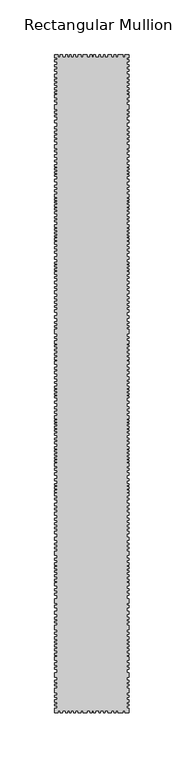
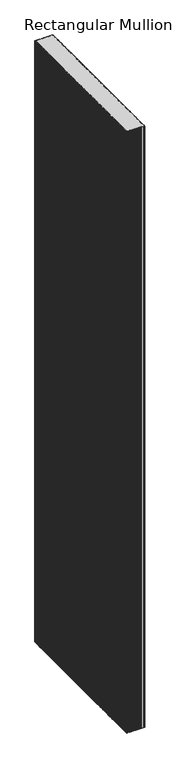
"""IFC4 building model written with IfcOpenShell, lengths in millimetres: member geometry, Rectangular Mullion : DucoSun Cubic Design louvre 600."""

from ifc_helpers import new_model, si_unit, frame, origin, place, context, project, spatial, polyline, outline, extrude, source, transform, mapped, element, save


def rectangular_mullion_49b28068(model_context):
    return source(origin(), model_context, "Body", "SweptSolid", [
        extrude(outline(polyline([(34.0, 597.3782451), (32.0, 597.3782451), (32.0, 595.4241521), (34.0, 595.4241521), (34.0, 593.6532553), (32.0, 593.6532553), (32.0, 590.9460223), (34.0, 590.9460223), (34.0, 588.9105087), (32.0, 588.9105087), (32.0, 586.7121541), (34.0, 586.7121541), (34.0, 585.0023227), (32.0, 585.0023227), (32.0, 582.3561551), (34.0, 582.3561551), (34.0, 579.3843053), (32.0, 579.3843053), (32.0, 577.8917893), (34.0, 577.8917893), (34.0, 575.8425117), (32.0, 575.8425117), (32.0, 573.8680636), (34.0, 573.8680636), (34.0, 572.1582322), (32.0, 572.1582322), (32.0, 570.0820083), (34.0, 570.0820083), (34.0, 568.3111116), (32.0, 568.3111116), (32.0, 566.4995045), (34.0, 566.4995045), (34.0, 565.0713495), (32.0, 565.0713495), (32.0, 563.4577392), (34.0, 563.4577392), (34.0, 561.0328231), (32.0, 561.0328231), (32.0, 558.5725067), (34.0, 558.5725067), (34.0, 557.0325964), (32.0, 557.0325964), (32.0, 554.5014796), (34.0, 554.5014796), (34.0, 550.4127524), (32.0, 550.4127524), (32.0, 548.4126391), (34.0, 548.4126391), (34.0, 546.8373286), (32.0, 546.8373286), (32.0, 544.9965163), (34.0, 544.9965163), (34.0, 543.3504053), (32.0, 543.3504053), (32.0, 540.3767855), (34.0, 540.3767855), (34.0, 537.9545244), (32.0, 537.9545244), (32.0, 534.5552168), (34.0, 534.5552168), (34.0, 532.5197032), (32.0, 532.5197032), (32.0, 530.239928), (34.0, 530.239928), (34.0, 528.6929377), (32.0, 528.6929377), (32.0, 526.4335177), (34.0, 526.4335177), (34.0, 524.5608452), (32.0, 524.5608452), (32.0, 522.6271073), (34.0, 522.6271073), (34.0, 520.5508835), (32.0, 520.5508835), (32.0, 518.0064916), (34.0, 518.0064916), (34.0, 514.9328661), (32.0, 514.9328661), (32.0, 512.9177077), (34.0, 512.9177077), (34.0, 511.4114277), (32.0, 511.4114277), (32.0, 508.9688114), (34.0, 508.9688114), (34.0, 506.7118273), (32.0, 506.7118273), (32.0, 503.8852623), (34.0, 503.8852623), (34.0, 502.4316003), (32.0, 502.4316003), (32.0, 499.9011516), (34.0, 499.9011516), (34.0, 497.8552569), (32.0, 497.8552569), (32.0, 496.6169522), (34.0, 496.6169522), (34.0, 495.0825312), (32.0, 495.0825312), (32.0, 493.4673512), (34.0, 493.4673512), (34.0, 492.0675286), (32.0, 492.0675286), (32.0, 490.5869469), (34.0, 490.5869469), (34.0, 489.1602046), (32.0, 489.1602046), (32.0, 486.3310055), (34.0, 486.3310055), (34.0, 484.2608252), (32.0, 484.2608252), (32.0, 481.1919832), (34.0, 481.1919832), (34.0, 479.2537672), (32.0, 479.2537672), (32.0, 476.9360418), (34.0, 476.9360418), (34.0, 475.0004598), (32.0, 475.0004598), (32.0, 472.9007258), (34.0, 472.9007258), (34.0, 470.1010805), (32.0, 470.1010805), (32.0, 468.8089365), (34.0, 468.8089365), (34.0, 467.3014351), (32.0, 467.3014351), (32.0, 466.0362108), (34.0, 466.0362108), (34.0, 465.0401831), (32.0, 465.0401831), (32.0, 463.2096458), (34.0, 463.2096458), (34.0, 461.6483051), (32.0, 461.6483051), (32.0, 460.1408038), (34.0, 460.1408038), (34.0, 458.6063828), (32.0, 458.6063828), (32.0, 457.0719618), (34.0, 457.0719618), (34.0, 455.0799064), (32.0, 455.0799064), (32.0, 452.3762692), (34.0, 452.3762692), (34.0, 450.8903036), (32.0, 450.8903036), (32.0, 449.1257194), (34.0, 449.1257194), (34.0, 447.6087962), (32.0, 447.6087962), (32.0, 444.8535683), (34.0, 444.8535683), (34.0, 442.7484504), (32.0, 442.7484504), (32.0, 441.4172729), (34.0, 441.4172729), (34.0, 439.9622649), (32.0, 439.9622649), (32.0, 438.3524688), (34.0, 438.3524688), (34.0, 436.8355456), (32.0, 436.8355456), (32.0, 435.1947919), (34.0, 435.1947919), (34.0, 433.9255296), (32.0, 433.9255296), (32.0, 432.5014792), (34.0, 432.5014792), (34.0, 431.1083865), (32.0, 431.1083865), (32.0, 429.6843361), (34.0, 429.6843361), (34.0, 427.0529387), (32.0, 427.0529387), (32.0, 424.9787784), (34.0, 424.9787784), (34.0, 423.0284485), (32.0, 423.0284485), (32.0, 420.7995001), (34.0, 420.7995001), (34.0, 418.8182126), (32.0, 418.8182126), (32.0, 415.6914933), (34.0, 415.6914933), (34.0, 413.4935025), (32.0, 413.4935025), (32.0, 410.954978), (34.0, 410.954978), (34.0, 409.4070971), (32.0, 409.4070971), (32.0, 408.1378348), (34.0, 408.1378348), (34.0, 406.4970812), (32.0, 406.4970812), (32.0, 404.8253698), (34.0, 404.8253698), (34.0, 403.3394042), (32.0, 403.3394042), (32.0, 402.0391843), (34.0, 402.0391843), (34.0, 400.0578969), (32.0, 400.0578969), (32.0, 397.6741604), (34.0, 397.6741604), (34.0, 396.0953219), (32.0, 396.0953219), (32.0, 393.3091364), (34.0, 393.3091364), (34.0, 391.0182728), (32.0, 391.0182728), (32.0, 388.572621), (34.0, 388.572621), (34.0, 387.1485707), (32.0, 387.1485707), (32.0, 385.0124951), (34.0, 385.0124951), (34.0, 382.1643944), (32.0, 382.1643944), (32.0, 379.3782089), (34.0, 379.3782089), (34.0, 377.427879), (32.0, 377.427879), (32.0, 375.4156339), (34.0, 375.4156339), (34.0, 373.6510498), (32.0, 373.6510498), (32.0, 371.1744404), (34.0, 371.1744404), (34.0, 369.6884748), (32.0, 369.6884748), (32.0, 367.5523993), (34.0, 367.5523993), (34.0, 365.4163237), (32.0, 365.4163237), (32.0, 362.1967316), (34.0, 362.1967316), (34.0, 359.5343765), (32.0, 359.5343765), (32.0, 356.7791486), (34.0, 356.7791486), (34.0, 355.0764797), (32.0, 355.0764797), (32.0, 352.9404041), (34.0, 352.9404041), (34.0, 351.6092266), (32.0, 351.6092266), (32.0, 349.5660239), (34.0, 349.5660239), (34.0, 345.512038), (32.0, 345.512038), (32.0, 343.0030092), (34.0, 343.0030092), (34.0, 341.3312979), (32.0, 341.3312979), (32.0, 339.0404342), (34.0, 339.0404342), (34.0, 336.5638249), (32.0, 336.5638249), (32.0, 335.015944), (34.0, 335.015944), (34.0, 333.5609361), (32.0, 333.5609361), (32.0, 331.5796486), (34.0, 331.5796486), (34.0, 330.0627254), (32.0, 330.0627254), (32.0, 327.8337769), (34.0, 327.8337769), (34.0, 326.1620656), (32.0, 326.1620656), (32.0, 324.0259901), (34.0, 324.0259901), (34.0, 322.0756602), (32.0, 322.0756602), (32.0, 320.6516099), (34.0, 320.6516099), (34.0, 317.7415939), (32.0, 317.7415939), (32.0, 315.2030693), (34.0, 315.2030693), (34.0, 313.1908242), (32.0, 313.1908242), (32.0, 311.2404944), (34.0, 311.2404944), (34.0, 309.1353764), (32.0, 309.1353764), (32.0, 306.2563181), (34.0, 306.2563181), (34.0, 303.7186411), (32.0, 303.7186411), (32.0, 301.7889994), (34.0, 301.7889994), (34.0, 300.3353374), (32.0, 300.3353374), (32.0, 297.8048887), (34.0, 297.8048887), (34.0, 295.758994), (32.0, 295.758994), (32.0, 294.5206893), (34.0, 294.5206893), (34.0, 292.9862683), (32.0, 292.9862683), (32.0, 291.3710883), (34.0, 291.3710883), (34.0, 289.9712657), (32.0, 289.9712657), (32.0, 288.490684), (34.0, 288.490684), (34.0, 287.0639417), (32.0, 287.0639417), (32.0, 284.2347426), (34.0, 284.2347426), (34.0, 282.1645623), (32.0, 282.1645623), (32.0, 279.0957203), (34.0, 279.0957203), (34.0, 277.1575043), (32.0, 277.1575043), (32.0, 274.8397789), (34.0, 274.8397789), (34.0, 272.9041969), (32.0, 272.9041969), (32.0, 270.8044629), (34.0, 270.8044629), (34.0, 268.0048176), (32.0, 268.0048176), (32.0, 266.7126736), (34.0, 266.7126736), (34.0, 265.2051722), (32.0, 265.2051722), (32.0, 263.9399479), (34.0, 263.9399479), (34.0, 262.9439202), (32.0, 262.9439202), (32.0, 261.1133829), (34.0, 261.1133829), (34.0, 259.5520422), (32.0, 259.5520422), (32.0, 258.0445409), (34.0, 258.0445409), (34.0, 256.5101199), (32.0, 256.5101199), (32.0, 254.9756989), (34.0, 254.9756989), (34.0, 252.9836435), (32.0, 252.9836435), (32.0, 250.2800063), (34.0, 250.2800063), (34.0, 248.7940407), (32.0, 248.7940407), (32.0, 247.0294565), (34.0, 247.0294565), (34.0, 245.5125333), (32.0, 245.5125333), (32.0, 242.7573054), (34.0, 242.7573054), (34.0, 240.6521875), (32.0, 240.6521875), (32.0, 239.32101), (34.0, 239.32101), (34.0, 237.866002), (32.0, 237.866002), (32.0, 236.2562059), (34.0, 236.2562059), (34.0, 234.7392827), (32.0, 234.7392827), (32.0, 233.098529), (34.0, 233.098529), (34.0, 231.8292667), (32.0, 231.8292667), (32.0, 230.4052163), (34.0, 230.4052163), (34.0, 229.0121236), (32.0, 229.0121236), (32.0, 227.5880732), (34.0, 227.5880732), (34.0, 224.9566758), (32.0, 224.9566758), (32.0, 222.8825155), (34.0, 222.8825155), (34.0, 220.9321856), (32.0, 220.9321856), (32.0, 218.7032372), (34.0, 218.7032372), (34.0, 216.7219497), (32.0, 216.7219497), (32.0, 213.5952304), (34.0, 213.5952304), (34.0, 211.3972396), (32.0, 211.3972396), (32.0, 208.8587151), (34.0, 208.8587151), (34.0, 207.3108342), (32.0, 207.3108342), (32.0, 206.0415719), (34.0, 206.0415719), (34.0, 204.4008183), (32.0, 204.4008183), (32.0, 202.7291069), (34.0, 202.7291069), (34.0, 201.2431413), (32.0, 201.2431413), (32.0, 199.9429214), (34.0, 199.9429214), (34.0, 197.961634), (32.0, 197.961634), (32.0, 195.5778975), (34.0, 195.5778975), (34.0, 193.999059), (32.0, 193.999059), (32.0, 191.2128735), (34.0, 191.2128735), (34.0, 188.9220099), (32.0, 188.9220099), (32.0, 186.4763581), (34.0, 186.4763581), (34.0, 185.0523078), (32.0, 185.0523078), (32.0, 182.9162322), (34.0, 182.9162322), (34.0, 180.0681315), (32.0, 180.0681315), (32.0, 177.281946), (34.0, 177.281946), (34.0, 175.3316161), (32.0, 175.3316161), (32.0, 173.319371), (34.0, 173.319371), (34.0, 171.5547869), (32.0, 171.5547869), (32.0, 169.0781775), (34.0, 169.0781775), (34.0, 167.5922119), (32.0, 167.5922119), (32.0, 165.4561364), (34.0, 165.4561364), (34.0, 163.3200608), (32.0, 163.3200608), (32.0, 160.1004687), (34.0, 160.1004687), (34.0, 157.4381136), (32.0, 157.4381136), (32.0, 154.6828857), (34.0, 154.6828857), (34.0, 152.9802168), (32.0, 152.9802168), (32.0, 150.8441412), (34.0, 150.8441412), (34.0, 149.5129637), (32.0, 149.5129637), (32.0, 147.469761), (34.0, 147.469761), (34.0, 143.4157751), (32.0, 143.4157751), (32.0, 140.9067463), (34.0, 140.9067463), (34.0, 139.235035), (32.0, 139.235035), (32.0, 136.9441713), (34.0, 136.9441713), (34.0, 134.467562), (32.0, 134.467562), (32.0, 132.9196811), (34.0, 132.9196811), (34.0, 131.4646731), (32.0, 131.4646731), (32.0, 129.4833857), (34.0, 129.4833857), (34.0, 127.9664625), (32.0, 127.9664625), (32.0, 125.737514), (34.0, 125.737514), (34.0, 124.0658027), (32.0, 124.0658027), (32.0, 121.9297272), (34.0, 121.9297272), (34.0, 119.9793973), (32.0, 119.9793973), (32.0, 118.555347), (34.0, 118.555347), (34.0, 115.645331), (32.0, 115.645331), (32.0, 113.1068064), (34.0, 113.1068064), (34.0, 111.0945613), (32.0, 111.0945613), (32.0, 109.1442315), (34.0, 109.1442315), (34.0, 107.0391135), (32.0, 107.0391135), (32.0, 104.0), (34.0, 104.0), (34.0, 100.0), (32.0, 100.0), (32.0, 97.8639244), (34.0, 97.8639244), (34.0, 95.7278489), (32.0, 95.7278489), (32.0, 92.5082567), (34.0, 92.5082567), (34.0, 89.8459017), (32.0, 89.8459017), (32.0, 87.0906738), (34.0, 87.0906738), (34.0, 85.3880049), (32.0, 85.3880049), (32.0, 83.2519293), (34.0, 83.2519293), (34.0, 81.9207518), (32.0, 81.9207518), (32.0, 79.8775491), (34.0, 79.8775491), (34.0, 75.8235632), (32.0, 75.8235632), (32.0, 73.3145343), (34.0, 73.3145343), (34.0, 71.642823), (32.0, 71.642823), (32.0, 69.3519594), (34.0, 69.3519594), (34.0, 66.8753501), (32.0, 66.8753501), (32.0, 65.3274692), (34.0, 65.3274692), (34.0, 63.8724612), (32.0, 63.8724612), (32.0, 61.8911738), (34.0, 61.8911738), (34.0, 60.3742505), (32.0, 60.3742505), (32.0, 58.1453021), (34.0, 58.1453021), (34.0, 56.4735908), (32.0, 56.4735908), (32.0, 54.3375153), (34.0, 54.3375153), (34.0, 52.3871854), (32.0, 52.3871854), (32.0, 50.963135), (34.0, 50.963135), (34.0, 48.0531191), (32.0, 48.0531191), (32.0, 45.5145945), (34.0, 45.5145945), (34.0, 43.5023494), (32.0, 43.5023494), (32.0, 41.5520195), (34.0, 41.5520195), (34.0, 39.4469016), (32.0, 39.4469016), (32.0, 36.4077881), (34.0, 36.4077881), (34.0, 32.4077881), (32.0, 32.4077881), (32.0, 29.6525602), (34.0, 29.6525602), (34.0, 27.9498913), (32.0, 27.9498913), (32.0, 25.8138157), (34.0, 25.8138157), (34.0, 24.4826382), (32.0, 24.4826382), (32.0, 22.4394355), (34.0, 22.4394355), (34.0, 18.3854496), (32.0, 18.3854496), (32.0, 15.8764207), (34.0, 15.8764207), (34.0, 14.2047094), (32.0, 14.2047094), (32.0, 11.9138458), (34.0, 11.9138458), (34.0, 9.4372364), (32.0, 9.4372364), (32.0, 7.8893556), (34.0, 7.8893556), (34.0, 6.4343476), (32.0, 6.4343476), (32.0, 4.0), (34.0, 4.0), (34.0, 0.0), (30.4544414, 0.0), (30.4544414, 2.0), (28.627942, 2.0), (28.627942, 0.0), (23.9842994, 0.0), (23.9842994, 2.0), (21.8172663, 2.0), (21.8172663, 0.0), (20.3003431, 0.0), (20.3003431, 2.0), (17.9475642, 2.0), (17.9475642, 0.0), (14.8827601, 0.0), (14.8827601, 2.0), (12.0965746, 2.0), (12.0965746, 0.0), (10.3939057, 0.0), (10.3939057, 2.0), (8.0101692, 2.0), (8.0101692, 0.0), (6.5242036, 0.0), (6.5242036, 2.0), (3.4884678, 2.0), (3.4884678, 0.0), (1.7094289, 0.0), (1.7094289, 2.0), (0.0, 2.0), (0.0, 0.0), (-1.8486488, 0.0), (-1.8486488, 2.0), (-4.2128978, 2.0), (-4.2128978, 0.0), (-7.9816511, 0.0), (-7.9816511, 2.0), (-10.0415908, 2.0), (-10.0415908, 0.0), (-12.7335575, 0.0), (-12.7335575, 2.0), (-15.0041729, 2.0), (-15.0041729, 0.0), (-16.8768453, 0.0), (-16.8768453, 2.0), (-18.9367851, 2.0), (-18.9367851, 0.0), (-20.2710642, 0.0), (-20.2710642, 2.0), (-22.3075955, 2.0), (-22.3075955, 0.0), (-23.8993671, 0.0), (-23.8993671, 2.0), (-26.9658683, 2.0), (-26.9658683, 0.0), (-28.9321744, 0.0), (-28.9321744, 2.0), (-30.8750721, 2.0), (-30.8750721, 0.0), (-34.0, 0.0), (-34.0, 4.0), (-32.0, 4.0), (-32.0, 6.4343476), (-34.0, 6.4343476), (-34.0, 7.8893556), (-32.0, 7.8893556), (-32.0, 9.4372364), (-34.0, 9.4372364), (-34.0, 11.9138458), (-32.0, 11.9138458), (-32.0, 14.2047094), (-34.0, 14.2047094), (-34.0, 15.8764207), (-32.0, 15.8764207), (-32.0, 18.3854496), (-34.0, 18.3854496), (-34.0, 22.4394355), (-32.0, 22.4394355), (-32.0, 24.4826382), (-34.0, 24.4826382), (-34.0, 25.8138157), (-32.0, 25.8138157), (-32.0, 27.9498913), (-34.0, 27.9498913), (-34.0, 29.6525602), (-32.0, 29.6525602), (-32.0, 32.4077881), (-34.0, 32.4077881), (-34.0, 36.4077881), (-32.0, 36.4077881), (-32.0, 39.4469016), (-34.0, 39.4469016), (-34.0, 41.5520195), (-32.0, 41.5520195), (-32.0, 43.5023494), (-34.0, 43.5023494), (-34.0, 45.5145945), (-32.0, 45.5145945), (-32.0, 48.0531191), (-34.0, 48.0531191), (-34.0, 50.963135), (-32.0, 50.963135), (-32.0, 52.3871854), (-34.0, 52.3871854), (-34.0, 54.3375153), (-32.0, 54.3375153), (-32.0, 56.4735908), (-34.0, 56.4735908), (-34.0, 58.1453021), (-32.0, 58.1453021), (-32.0, 60.3742505), (-34.0, 60.3742505), (-34.0, 61.8911738), (-32.0, 61.8911738), (-32.0, 63.8724612), (-34.0, 63.8724612), (-34.0, 65.3274692), (-32.0, 65.3274692), (-32.0, 66.8753501), (-34.0, 66.8753501), (-34.0, 69.3519594), (-32.0, 69.3519594), (-32.0, 71.642823), (-34.0, 71.642823), (-34.0, 73.3145343), (-32.0, 73.3145343), (-32.0, 75.8235632), (-34.0, 75.8235632), (-34.0, 79.8775491), (-32.0, 79.8775491), (-32.0, 81.9207518), (-34.0, 81.9207518), (-34.0, 83.2519293), (-32.0, 83.2519293), (-32.0, 85.3880049), (-34.0, 85.3880049), (-34.0, 87.0906738), (-32.0, 87.0906738), (-32.0, 89.8459017), (-34.0, 89.8459017), (-34.0, 92.5082567), (-32.0, 92.5082567), (-32.0, 95.7278489), (-34.0, 95.7278489), (-34.0, 97.8639244), (-32.0, 97.8639244), (-32.0, 100.0), (-34.0, 100.0), (-34.0, 104.0), (-32.0, 104.0), (-32.0, 107.0391135), (-34.0, 107.0391135), (-34.0, 109.1442315), (-32.0, 109.1442315), (-32.0, 111.0945613), (-34.0, 111.0945613), (-34.0, 113.1068064), (-32.0, 113.1068064), (-32.0, 115.645331), (-34.0, 115.645331), (-34.0, 118.555347), (-32.0, 118.555347), (-32.0, 119.9793973), (-34.0, 119.9793973), (-34.0, 121.9297272), (-32.0, 121.9297272), (-32.0, 124.0658027), (-34.0, 124.0658027), (-34.0, 125.737514), (-32.0, 125.737514), (-32.0, 127.9664625), (-34.0, 127.9664625), (-34.0, 129.4833857), (-32.0, 129.4833857), (-32.0, 131.4646731), (-34.0, 131.4646731), (-34.0, 132.9196811), (-32.0, 132.9196811), (-32.0, 134.467562), (-34.0, 134.467562), (-34.0, 136.9441713), (-32.0, 136.9441713), (-32.0, 139.235035), (-34.0, 139.235035), (-34.0, 140.9067463), (-32.0, 140.9067463), (-32.0, 143.4157751), (-34.0, 143.4157751), (-34.0, 147.469761), (-32.0, 147.469761), (-32.0, 149.5129637), (-34.0, 149.5129637), (-34.0, 150.8441412), (-32.0, 150.8441412), (-32.0, 152.9802168), (-34.0, 152.9802168), (-34.0, 154.6828857), (-32.0, 154.6828857), (-32.0, 157.4381136), (-34.0, 157.4381136), (-34.0, 160.1004687), (-32.0, 160.1004687), (-32.0, 163.3200608), (-34.0, 163.3200608), (-34.0, 165.4561364), (-32.0, 165.4561364), (-32.0, 167.5922119), (-34.0, 167.5922119), (-34.0, 169.0781775), (-32.0, 169.0781775), (-32.0, 171.5547869), (-34.0, 171.5547869), (-34.0, 173.319371), (-32.0, 173.319371), (-32.0, 175.3316161), (-34.0, 175.3316161), (-34.0, 177.281946), (-32.0, 177.281946), (-32.0, 180.0681315), (-34.0, 180.0681315), (-34.0, 182.9162322), (-32.0, 182.9162322), (-32.0, 185.0523078), (-34.0, 185.0523078), (-34.0, 186.4763581), (-32.0, 186.4763581), (-32.0, 188.9220099), (-34.0, 188.9220099), (-34.0, 191.2128735), (-32.0, 191.2128735), (-32.0, 193.999059), (-34.0, 193.999059), (-34.0, 195.5778975), (-32.0, 195.5778975), (-32.0, 197.961634), (-34.0, 197.961634), (-34.0, 199.9429214), (-32.0, 199.9429214), (-32.0, 201.2431413), (-34.0, 201.2431413), (-34.0, 202.7291069), (-32.0, 202.7291069), (-32.0, 204.4008183), (-34.0, 204.4008183), (-34.0, 206.0415719), (-32.0, 206.0415719), (-32.0, 207.3108342), (-34.0, 207.3108342), (-34.0, 208.8587151), (-32.0, 208.8587151), (-32.0, 211.3972396), (-34.0, 211.3972396), (-34.0, 213.5952304), (-32.0, 213.5952304), (-32.0, 216.7219497), (-34.0, 216.7219497), (-34.0, 218.7032372), (-32.0, 218.7032372), (-32.0, 220.9321856), (-34.0, 220.9321856), (-34.0, 222.8825155), (-32.0, 222.8825155), (-32.0, 224.9566758), (-34.0, 224.9566758), (-34.0, 227.5880732), (-32.0, 227.5880732), (-32.0, 229.0121236), (-34.0, 229.0121236), (-34.0, 230.4052163), (-32.0, 230.4052163), (-32.0, 231.8292667), (-34.0, 231.8292667), (-34.0, 233.098529), (-32.0, 233.098529), (-32.0, 234.7392827), (-34.0, 234.7392827), (-34.0, 236.2562059), (-32.0, 236.2562059), (-32.0, 237.866002), (-34.0, 237.866002), (-34.0, 239.32101), (-32.0, 239.32101), (-32.0, 240.6521875), (-34.0, 240.6521875), (-34.0, 242.7573054), (-32.0, 242.7573054), (-32.0, 245.5125333), (-34.0, 245.5125333), (-34.0, 247.0294565), (-32.0, 247.0294565), (-32.0, 248.7940407), (-34.0, 248.7940407), (-34.0, 250.2800063), (-32.0, 250.2800063), (-32.0, 252.9836435), (-34.0, 252.9836435), (-34.0, 254.9756989), (-32.0, 254.9756989), (-32.0, 256.5101199), (-34.0, 256.5101199), (-34.0, 258.0445409), (-32.0, 258.0445409), (-32.0, 259.5520422), (-34.0, 259.5520422), (-34.0, 261.1133829), (-32.0, 261.1133829), (-32.0, 262.9439202), (-34.0, 262.9439202), (-34.0, 263.9399479), (-32.0, 263.9399479), (-32.0, 265.2051722), (-34.0, 265.2051722), (-34.0, 266.7126736), (-32.0, 266.7126736), (-32.0, 268.0048176), (-34.0, 268.0048176), (-34.0, 270.8044629), (-32.0, 270.8044629), (-32.0, 272.9041969), (-34.0, 272.9041969), (-34.0, 274.8397789), (-32.0, 274.8397789), (-32.0, 277.1575043), (-34.0, 277.1575043), (-34.0, 279.0957203), (-32.0, 279.0957203), (-32.0, 282.1645623), (-34.0, 282.1645623), (-34.0, 284.2347426), (-32.0, 284.2347426), (-32.0, 287.0639417), (-34.0, 287.0639417), (-34.0, 288.490684), (-32.0, 288.490684), (-32.0, 289.9712657), (-34.0, 289.9712657), (-34.0, 291.3710883), (-32.0, 291.3710883), (-32.0, 292.9862683), (-34.0, 292.9862683), (-34.0, 294.5206893), (-32.0, 294.5206893), (-32.0, 295.758994), (-34.0, 295.758994), (-34.0, 297.8048887), (-32.0, 297.8048887), (-32.0, 300.3353374), (-34.0, 300.3353374), (-34.0, 301.7889994), (-32.0, 301.7889994), (-32.0, 304.6155644), (-34.0, 304.6155644), (-34.0, 306.2563181), (-32.0, 306.2563181), (-32.0, 309.1353764), (-34.0, 309.1353764), (-34.0, 311.2404944), (-32.0, 311.2404944), (-32.0, 313.1908242), (-34.0, 313.1908242), (-34.0, 315.2030693), (-32.0, 315.2030693), (-32.0, 317.7415939), (-34.0, 317.7415939), (-34.0, 320.6516099), (-32.0, 320.6516099), (-32.0, 322.0756602), (-34.0, 322.0756602), (-34.0, 324.0259901), (-32.0, 324.0259901), (-32.0, 326.1620656), (-34.0, 326.1620656), (-34.0, 327.8337769), (-32.0, 327.8337769), (-32.0, 330.0627254), (-34.0, 330.0627254), (-34.0, 331.5796486), (-32.0, 331.5796486), (-32.0, 333.5609361), (-34.0, 333.5609361), (-34.0, 335.015944), (-32.0, 335.015944), (-32.0, 336.5638249), (-34.0, 336.5638249), (-34.0, 339.0404342), (-32.0, 339.0404342), (-32.0, 341.3312979), (-34.0, 341.3312979), (-34.0, 343.0030092), (-32.0, 343.0030092), (-32.0, 345.512038), (-34.0, 345.512038), (-34.0, 349.5660239), (-32.0, 349.5660239), (-32.0, 351.6092266), (-34.0, 351.6092266), (-34.0, 352.9404041), (-32.0, 352.9404041), (-32.0, 355.0764797), (-34.0, 355.0764797), (-34.0, 356.7791486), (-32.0, 356.7791486), (-32.0, 359.5343765), (-34.0, 359.5343765), (-34.0, 362.1967316), (-32.0, 362.1967316), (-32.0, 365.4163237), (-34.0, 365.4163237), (-34.0, 367.5523993), (-32.0, 367.5523993), (-32.0, 369.6884748), (-34.0, 369.6884748), (-34.0, 371.1744404), (-32.0, 371.1744404), (-32.0, 373.6510498), (-34.0, 373.6510498), (-34.0, 375.4156339), (-32.0, 375.4156339), (-32.0, 377.427879), (-34.0, 377.427879), (-34.0, 379.3782089), (-32.0, 379.3782089), (-32.0, 382.1643944), (-34.0, 382.1643944), (-34.0, 385.0124951), (-32.0, 385.0124951), (-32.0, 387.1485707), (-34.0, 387.1485707), (-34.0, 388.572621), (-32.0, 388.572621), (-32.0, 391.0182728), (-34.0, 391.0182728), (-34.0, 393.3091364), (-32.0, 393.3091364), (-32.0, 396.0953219), (-34.0, 396.0953219), (-34.0, 397.6741604), (-32.0, 397.6741604), (-32.0, 400.0578969), (-34.0, 400.0578969), (-34.0, 402.0391843), (-32.0, 402.0391843), (-32.0, 403.3394042), (-34.0, 403.3394042), (-34.0, 404.8253698), (-32.0, 404.8253698), (-32.0, 406.4970812), (-34.0, 406.4970812), (-34.0, 408.1378348), (-32.0, 408.1378348), (-32.0, 409.4070971), (-34.0, 409.4070971), (-34.0, 410.954978), (-32.0, 410.954978), (-32.0, 413.4935025), (-34.0, 413.4935025), (-34.0, 415.6914933), (-32.0, 415.6914933), (-32.0, 418.8182126), (-34.0, 418.8182126), (-34.0, 420.7995001), (-32.0, 420.7995001), (-32.0, 423.0284485), (-34.0, 423.0284485), (-34.0, 424.9787784), (-32.0, 424.9787784), (-32.0, 427.0529387), (-34.0, 427.0529387), (-34.0, 429.6843361), (-32.0, 429.6843361), (-32.0, 431.1083865), (-34.0, 431.1083865), (-34.0, 432.5014792), (-32.0, 432.5014792), (-32.0, 433.9255296), (-34.0, 433.9255296), (-34.0, 435.1947919), (-32.0, 435.1947919), (-32.0, 436.8355456), (-34.0, 436.8355456), (-34.0, 438.3524688), (-32.0, 438.3524688), (-32.0, 439.9622649), (-34.0, 439.9622649), (-34.0, 441.4172729), (-32.0, 441.4172729), (-32.0, 442.7484504), (-34.0, 442.7484504), (-34.0, 444.8535683), (-32.0, 444.8535683), (-32.0, 447.6087962), (-34.0, 447.6087962), (-34.0, 449.1257194), (-32.0, 449.1257194), (-32.0, 450.8903036), (-34.0, 450.8903036), (-34.0, 452.3762692), (-32.0, 452.3762692), (-32.0, 455.0799064), (-34.0, 455.0799064), (-34.0, 457.0719618), (-32.0, 457.0719618), (-32.0, 458.6063828), (-34.0, 458.6063828), (-34.0, 460.1408038), (-32.0, 460.1408038), (-32.0, 461.6483051), (-34.0, 461.6483051), (-34.0, 463.2096458), (-32.0, 463.2096458), (-32.0, 465.0401831), (-34.0, 465.0401831), (-34.0, 466.0362108), (-32.0, 466.0362108), (-32.0, 467.3014351), (-34.0, 467.3014351), (-34.0, 468.8089365), (-32.0, 468.8089365), (-32.0, 470.1010805), (-34.0, 470.1010805), (-34.0, 472.9007258), (-32.0, 472.9007258), (-32.0, 475.0004598), (-34.0, 475.0004598), (-34.0, 476.9360418), (-32.0, 476.9360418), (-32.0, 479.2537672), (-34.0, 479.2537672), (-34.0, 481.1919832), (-32.0, 481.1919832), (-32.0, 484.2608252), (-34.0, 484.2608252), (-34.0, 486.3310055), (-32.0, 486.3310055), (-32.0, 489.1602046), (-34.0, 489.1602046), (-34.0, 490.5869469), (-32.0, 490.5869469), (-32.0, 492.0675286), (-34.0, 492.0675286), (-34.0, 493.4673512), (-32.0, 493.4673512), (-32.0, 495.0825312), (-34.0, 495.0825312), (-34.0, 496.6169522), (-32.0, 496.6169522), (-32.0, 497.8552569), (-34.0, 497.8552569), (-34.0, 499.9011516), (-32.0, 499.9011516), (-32.0, 502.4316003), (-34.0, 502.4316003), (-34.0, 503.8852623), (-32.0, 503.8852623), (-32.0, 506.7118273), (-34.0, 506.7118273), (-34.0, 508.9688114), (-32.0, 508.9688114), (-32.0, 511.4114277), (-34.0, 511.4114277), (-34.0, 512.9177077), (-32.0, 512.9177077), (-32.0, 514.9328661), (-34.0, 514.9328661), (-34.0, 518.0064916), (-32.0, 518.0064916), (-32.0, 520.5508835), (-34.0, 520.5508835), (-34.0, 522.6271073), (-32.0, 522.6271073), (-32.0, 524.5608452), (-34.0, 524.5608452), (-34.0, 526.4335177), (-32.0, 526.4335177), (-32.0, 528.6929377), (-34.0, 528.6929377), (-34.0, 530.239928), (-32.0, 530.239928), (-32.0, 532.5197032), (-34.0, 532.5197032), (-34.0, 534.5552168), (-32.0, 534.5552168), (-32.0, 537.9545244), (-34.0, 537.9545244), (-34.0, 540.3767855), (-32.0, 540.3767855), (-32.0, 543.3504053), (-34.0, 543.3504053), (-34.0, 544.9965163), (-32.0, 544.9965163), (-32.0, 546.8373286), (-34.0, 546.8373286), (-34.0, 548.4126391), (-32.0, 548.4126391), (-32.0, 550.4127524), (-34.0, 550.4127524), (-34.0, 554.5014796), (-32.0, 554.5014796), (-32.0, 557.0325964), (-34.0, 557.0325964), (-34.0, 558.5725067), (-32.0, 558.5725067), (-32.0, 561.0328231), (-34.0, 561.0328231), (-34.0, 563.4577392), (-32.0, 563.4577392), (-32.0, 565.0713495), (-34.0, 565.0713495), (-34.0, 566.4995045), (-32.0, 566.4995045), (-32.0, 568.3111116), (-34.0, 568.3111116), (-34.0, 570.0820083), (-32.0, 570.0820083), (-32.0, 572.1582322), (-34.0, 572.1582322), (-34.0, 573.8680636), (-32.0, 573.8680636), (-32.0, 575.8425117), (-34.0, 575.8425117), (-34.0, 577.8917893), (-32.0, 577.8917893), (-32.0, 579.3843053), (-34.0, 579.3843053), (-34.0, 582.3561551), (-32.0, 582.3561551), (-32.0, 585.0023227), (-34.0, 585.0023227), (-34.0, 586.7121541), (-32.0, 586.7121541), (-32.0, 588.9105087), (-34.0, 588.9105087), (-34.0, 590.9460223), (-32.0, 590.9460223), (-32.0, 593.6532553), (-34.0, 593.6532553), (-34.0, 595.4241521), (-32.0, 595.4241521), (-32.0, 597.3782451), (-34.0, 597.3782451), (-34.0, 600.0), (-30.8750721, 600.0), (-30.8750721, 598.0), (-28.9321744, 598.0), (-28.9321744, 600.0), (-26.9658683, 600.0), (-26.9658683, 598.0), (-23.8993671, 598.0), (-23.8993671, 600.0), (-22.3075955, 600.0), (-22.3075955, 598.0), (-20.2710642, 598.0), (-20.2710642, 600.0), (-18.9367851, 600.0), (-18.9367851, 598.0), (-16.8768453, 598.0), (-16.8768453, 600.0), (-15.0041729, 600.0), (-15.0041729, 598.0), (-12.7335575, 598.0), (-12.7335575, 600.0), (-10.0415908, 600.0), (-10.0415908, 598.0), (-7.9816511, 598.0), (-7.9816511, 600.0), (-4.2128978, 600.0), (-4.2128978, 598.0), (-1.8486488, 598.0), (-1.8486488, 600.0), (0.0, 600.0), (0.0, 598.0), (1.7094289, 598.0), (1.7094289, 600.0), (3.4884678, 600.0), (3.4884678, 598.0), (6.5242036, 598.0), (6.5242036, 600.0), (8.0101692, 600.0), (8.0101692, 598.0), (10.3939057, 598.0), (10.3939057, 600.0), (12.0965746, 600.0), (12.0965746, 598.0), (14.8827601, 598.0), (14.8827601, 600.0), (17.9475642, 600.0), (17.9475642, 598.0), (20.3003431, 598.0), (20.3003431, 600.0), (21.8172663, 600.0), (21.8172663, 598.0), (23.9842994, 598.0), (23.9842994, 600.0), (28.627942, 600.0), (28.627942, 598.0), (30.4544414, 598.0), (30.4544414, 600.0), (34.0, 600.0), (34.0, 597.3782451)])), frame((0.0, 0.0, -2400.0), z_axis=(0.0, 0.0, 1.0), x_axis=(1.0, 0.0, 0.0)), (0.0, 0.0, 1.0), 2400.0),
    ])


if __name__ == "__main__":
    model = new_model("IFC4")
    model_context = context("Model", 3, world=origin())
    ifc_project = project(units=[si_unit("LENGTHUNIT", "METRE", prefix="MILLI")], contexts=[model_context])
    site = spatial("IfcSite", under=ifc_project)
    building = spatial("IfcBuilding", under=site)
    placement = place(None, origin())
    rectangular_mullion_shape = rectangular_mullion_49b28068(model_context)
    element("IfcMember", 1, ObjectType="Rectangular Mullion : DucoSun Cubic Design louvre 600", at=placement, inside=building, context=model_context, shape_type="MappedRepresentation", body=[
        mapped(rectangular_mullion_shape, transform((0.0, 0.0, 0.0), x_axis=(1.0, 0.0, 0.0), y_axis=(0.0, 1.0, 0.0), z_axis=(0.0, 0.0, 1.0))),
    ])
    save(model, "model.ifc")
